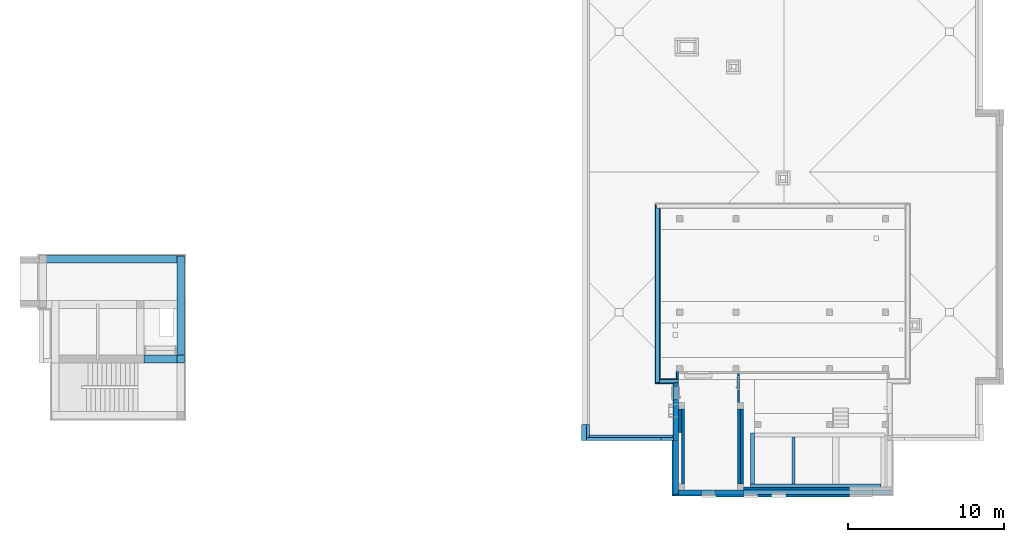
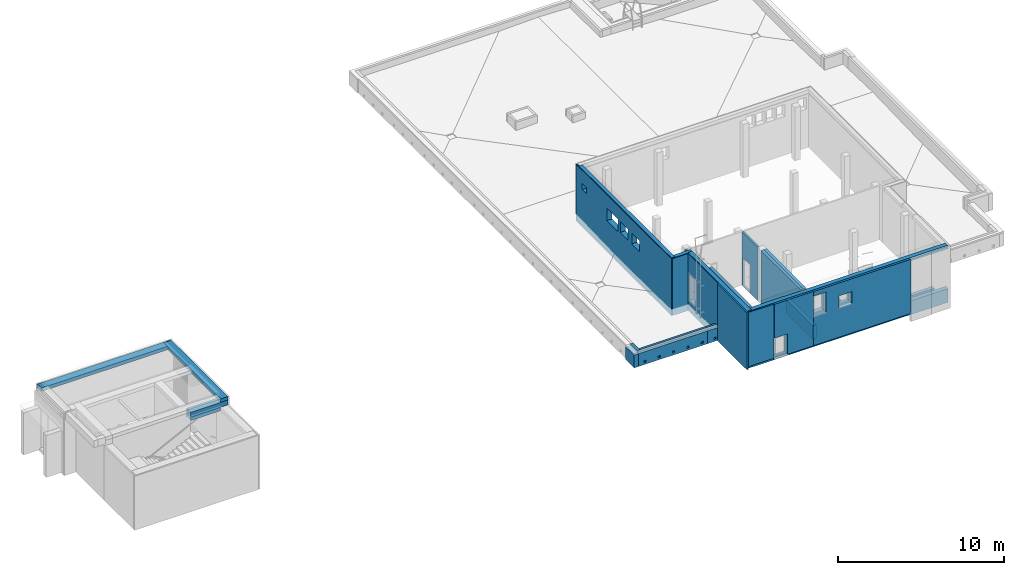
# One storey, part 4 of 17: 30 walls, 15 openings.
"""IFC4 building model written with IfcOpenShell, lengths in metres."""

from ifc_helpers import new_model, entity, si_unit, converted_unit, derived_unit, frame, frame_2d, origin, origin_with_axes, place, context, subcontext, project, spatial, polyline, rectangle, outline, extrude, clip, bounded_halfspace, material, layer, layer_set, layer_usage, element, save


model = new_model("IFC4")

# Units and contexts
model_context = context("Model", 3, precision=1e-05, world=origin())
body_context = subcontext(model_context, "Body", "Model", "MODEL_VIEW")
ifc_project = project(units=[si_unit("LENGTHUNIT", "METRE"), si_unit("AREAUNIT", "SQUARE_METRE"), si_unit("VOLUMEUNIT", "CUBIC_METRE"), si_unit("MASSUNIT", "GRAM", prefix="KILO"), converted_unit("PLANEANGLEUNIT", "DEGREE", entity("IfcPlaneAngleMeasure", 0.0174532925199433), si_unit("PLANEANGLEUNIT", "RADIAN"), dimensions=[0, 0, 0, 0, 0, 0, 0]), derived_unit("THERMALTRANSMITTANCEUNIT", [(si_unit("POWERUNIT", "WATT"), 1), (si_unit("THERMODYNAMICTEMPERATUREUNIT", "KELVIN"), -1), (si_unit("LENGTHUNIT", "METRE"), -2)]), derived_unit("VOLUMETRICFLOWRATEUNIT", [(si_unit("LENGTHUNIT", "METRE"), 3), (converted_unit("TIMEUNIT", "hour", entity("IfcTimeMeasure", 3600.0), si_unit("TIMEUNIT", "SECOND"), dimensions=[0, 0, 1, 0, 0, 0, 0]), -1), (si_unit("LENGTHUNIT", "METRE"), -1)])], contexts=[model_context])

# Site, building, storey
site_placement = place(None, origin())
site = spatial("IfcSite", under=ifc_project, at=site_placement, Name="3. ASŘ", CompositionType="ELEMENT")
building_placement = place(site_placement, origin())
building = spatial("IfcBuilding", under=site, at=building_placement, Name="Pavilon C", CompositionType="ELEMENT")
storey_placement = place(building_placement, frame((0.0, 0.0, 13.8)))
storey = spatial("IfcBuildingStorey", under=building, at=storey_placement, Name="Půdorys 5.NP", CompositionType="ELEMENT", Elevation=13.8)

# Walls
ifc_material_1 = material(Name="ZDIVO Z CDm")
ifc_layer_1 = layer(ifc_material_1, 0.5)
ifc_layer_set_1 = layer_set([ifc_layer_1])
ifc_layer_usage_1 = layer_usage(ifc_layer_set_1, "AXIS2", "POSITIVE", 0.0)
wall_1_placement = place(storey_placement, frame((-3.62499999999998, 3.95, 3.08)))
element("IfcWall", 1, at=wall_1_placement, inside=storey, material=ifc_layer_usage_1, Name="ZDIVO Z CDm", context=body_context, shape_type="SweptSolid", body=[
    extrude(rectangle(XDim=2.6, YDim=0.5, at=frame_2d((1.3, 0.25), x_axis=(1.0, 0.0))), origin_with_axes(), (0.0, 0.0, 1.0), 0.37),
])
ifc_material_2 = material(Name="ZDIVO Z CDm")
ifc_layer_2 = layer(ifc_material_2, 0.2)
ifc_layer_set_2 = layer_set([ifc_layer_2])
ifc_layer_usage_2 = layer_usage(ifc_layer_set_2, "AXIS2", "POSITIVE", 0.0)
wall_2_placement = place(storey_placement, frame((37.95, -0.800000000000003, -0.1), z_axis=(0.0, 0.0, 1.0), x_axis=(0.0, -1.0, 0.0)))
element("IfcWall", 2, at=wall_2_placement, inside=storey, material=ifc_layer_usage_2, Name="ZDIVO Z CDm", context=body_context, shape_type="SweptSolid", body=[
    extrude(rectangle(XDim=3.0, YDim=0.2, at=frame_2d((1.5, 0.1), x_axis=(1.0, 0.0))), origin_with_axes(), (0.0, 0.0, 1.0), 1.0),
])

# Wall, opening
ifc_material_3 = material(Name="ZDIVO Z CDm")
ifc_layer_3 = layer(ifc_material_3, 0.125)
ifc_layer_set_3 = layer_set([ifc_layer_3])
ifc_layer_usage_3 = layer_usage(ifc_layer_set_3, "AXIS2", "POSITIVE", 0.0)
wall_3_placement = place(storey_placement, frame((34.45, 3.275, -0.1), z_axis=(0.0, 0.0, 1.0), x_axis=(0.0, -1.0, 0.0)))
wall_3 = element("IfcWall", 3, at=wall_3_placement, inside=storey, material=ifc_layer_usage_3, Name="ZDIVO Z CDm", context=body_context, shape_type="SweptSolid", body=[
    extrude(rectangle(XDim=1.875, YDim=0.125, at=frame_2d((0.937499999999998, 0.0625), x_axis=(1.0, 0.0))), origin_with_axes(), (0.0, 0.0, 1.0), 3.95),
])
opening_1_placement = place(wall_3_placement, frame((1.05, 0.125, 0.1), z_axis=(0.0, -1.0, 0.0), x_axis=(0.0, 0.0, 1.0)))
element("IfcOpeningElement", 4, at=opening_1_placement, cuts=wall_3, Name="Dveřní otvor", ObjectType="Opening", context=body_context, shape_type="SweptSolid", body=[
    extrude(outline(polyline([(0.0, 0.9), (2.02, 0.9), (2.02, 0.0), (0.0, 0.0), (0.0, 0.9)])), origin_with_axes(), (0.0, 0.0, 1.0), 0.125),
])

# Walls
ifc_material_4 = material(Name="ZDIVO Z CDm")
ifc_layer_4 = layer(ifc_material_4, 0.125)
ifc_layer_set_4 = layer_set([ifc_layer_4])
ifc_layer_usage_4 = layer_usage(ifc_layer_set_4, "AXIS2", "POSITIVE", 0.0)
wall_4_placement = place(storey_placement, frame((30.65, 2.94999999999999, -0.1), z_axis=(0.0, 0.0, 1.0), x_axis=(0.0, 1.0, 0.0)))
element("IfcWall", 5, at=wall_4_placement, inside=storey, material=ifc_layer_usage_4, Name="ZDIVO Z CDm", context=body_context, shape_type="SweptSolid", body=[
    extrude(rectangle(XDim=0.450000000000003, YDim=0.125, at=frame_2d((0.225000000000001, 0.0625), x_axis=(1.0, 0.0))), origin_with_axes(), (0.0, 0.0, 1.0), 3.95),
])
ifc_material_5 = material(Name="ZDIVO Z CDm")
ifc_layer_5 = layer(ifc_material_5, 0.25)
ifc_layer_set_5 = layer_set([ifc_layer_5])
ifc_layer_usage_5 = layer_usage(ifc_layer_set_5, "AXIS2", "POSITIVE", 0.0)
wall_5_placement = place(storey_placement, frame((43.65, -3.80000000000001, -0.1), z_axis=(0.0, 0.0, 1.0), x_axis=(-1.0, 5.44607605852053e-17, 0.0)))
element("IfcWall", 6, at=wall_5_placement, inside=storey, material=ifc_layer_usage_5, Name="ZDIVO Z CDm", context=body_context, shape_type="SweptSolid", body=[
    extrude(rectangle(XDim=8.34999999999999, YDim=0.25, at=frame_2d((4.175, 0.125), x_axis=(1.0, 0.0))), origin_with_axes(), (0.0, 0.0, 1.0), 1.0),
])
ifc_material_6 = material(Name="PLYNOSILIKÁT")
ifc_layer_6 = layer(ifc_material_6, 0.3)
ifc_layer_set_6 = layer_set([ifc_layer_6])
ifc_layer_usage_6 = layer_usage(ifc_layer_set_6, "AXIS2", "POSITIVE", 0.0)
wall_6_placement = place(storey_placement, frame((34.85, -4.5, -0.1), z_axis=(0.0, 0.0, 1.0), x_axis=(1.0, -9.57362843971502e-17, 0.0)))
element("IfcWall", 7, at=wall_6_placement, inside=storey, material=ifc_layer_usage_6, Name="PLYNOSILIKÁT", context=body_context, shape_type="SweptSolid", body=[
    extrude(rectangle(XDim=9.50000000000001, YDim=0.3, at=frame_2d((4.75000000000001, 0.15), x_axis=(1.0, 0.0))), origin_with_axes(), (0.0, 0.0, 1.0), 1.0),
])
ifc_material_7 = material(Name="ZDIVO Z CDm")
ifc_layer_7 = layer(ifc_material_7, 0.25)
ifc_layer_set_7 = layer_set([ifc_layer_7])
ifc_layer_usage_7 = layer_usage(ifc_layer_set_7, "AXIS2", "POSITIVE", 0.0)
wall_7_placement = place(storey_placement, frame((35.55, -3.80000000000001, -0.1), z_axis=(0.0, 0.0, 1.0), x_axis=(0.0, 1.0, 0.0)))
element("IfcWall", 8, at=wall_7_placement, inside=storey, material=ifc_layer_usage_7, Name="ZDIVO Z CDm", context=body_context, shape_type="SweptSolid", body=[
    extrude(rectangle(XDim=3.25000000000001, YDim=0.25, at=frame_2d((1.625, 0.125), x_axis=(1.0, 0.0))), origin_with_axes(), (0.0, 0.0, 1.0), 1.0),
])
ifc_material_8 = material(Name="ZELEZOBETONOVÁ KCE")
ifc_layer_8 = layer(ifc_material_8, 0.2)
ifc_layer_set_8 = layer_set([ifc_layer_8])
ifc_layer_usage_8 = layer_usage(ifc_layer_set_8, "AXIS2", "POSITIVE", 0.0)
wall_8_placement = place(storey_placement, frame((30.85, -0.499999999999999, -0.1), z_axis=(0.0, 0.0, 1.0), x_axis=(0.0, 1.0, 0.0)))
element("IfcWall", 9, at=wall_8_placement, inside=storey, material=ifc_layer_usage_8, Name="ZELEZOBETONOVÁ KCE", context=body_context, shape_type="SweptSolid", body=[
    extrude(rectangle(XDim=1.5, YDim=0.2, at=frame_2d((0.75, 0.1), x_axis=(1.0, 0.0))), origin_with_axes(), (0.0, 0.0, 1.0), 3.95),
])
ifc_material_9 = material(Name="ZELEZOBETONOVÁ KCE")
ifc_layer_9 = layer(ifc_material_9, 0.2)
ifc_layer_set_9 = layer_set([ifc_layer_9])
ifc_layer_usage_9 = layer_usage(ifc_layer_set_9, "AXIS2", "POSITIVE", 0.0)
wall_9_placement = place(storey_placement, frame((31.05, -3.79999999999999, -0.1), z_axis=(0.0, 0.0, 1.0), x_axis=(0.0, 1.0, 0.0)))
element("IfcWall", 10, at=wall_9_placement, inside=storey, material=ifc_layer_usage_9, Name="ZELEZOBETONOVÁ KCE", context=body_context, shape_type="SweptSolid", body=[
    extrude(rectangle(XDim=4.79999999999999, YDim=0.2, at=frame_2d((2.4, 0.1), x_axis=(1.0, 0.0))), origin_with_axes(), (0.0, 0.0, 1.0), 3.95),
])
ifc_material_10 = material(Name="ZELEZOBETONOVÁ KCE")
ifc_layer_10 = layer(ifc_material_10, 0.2)
ifc_layer_set_10 = layer_set([ifc_layer_10])
ifc_layer_usage_10 = layer_usage(ifc_layer_set_10, "AXIS2", "POSITIVE", 0.0)
wall_10_placement = place(storey_placement, frame((34.45, 1.0, -0.1), z_axis=(0.0, 0.0, 1.0), x_axis=(0.0, -1.0, 0.0)))
element("IfcWall", 11, at=wall_10_placement, inside=storey, material=ifc_layer_usage_10, Name="ZELEZOBETONOVÁ KCE", context=body_context, shape_type="SweptSolid", body=[
    extrude(rectangle(XDim=4.8, YDim=0.2, at=frame_2d((2.4, 0.1), x_axis=(1.0, 0.0))), origin_with_axes(), (0.0, 0.0, 1.0), 3.95),
])
ifc_material_11 = material(Name="ZELEZOBETONOVÁ KCE")
ifc_layer_11 = layer(ifc_material_11, 0.2)
ifc_layer_set_11 = layer_set([ifc_layer_11])
ifc_layer_usage_11 = layer_usage(ifc_layer_set_11, "AXIS2", "POSITIVE", 0.0)
wall_11_placement = place(storey_placement, frame((34.65, 1.0, -0.1), z_axis=(0.0, 0.0, 1.0), x_axis=(0.0, -1.0, 0.0)))
element("IfcWall", 12, at=wall_11_placement, inside=storey, material=ifc_layer_usage_11, Name="ZELEZOBETONOVÁ KCE", context=body_context, shape_type="SweptSolid", body=[
    extrude(rectangle(XDim=4.8, YDim=0.2, at=frame_2d((2.4, 0.1), x_axis=(1.0, 0.0))), origin_with_axes(), (0.0, 0.0, 1.0), 3.95),
])

# Wall, openings
ifc_material_12 = material(Name="EPS")
ifc_layer_12 = layer(ifc_material_12, 0.05)
ifc_material_13 = material(Name="PLYNOSILIKÁT")
ifc_layer_13 = layer(ifc_material_13, 0.3)
ifc_layer_set_12 = layer_set([ifc_layer_12, ifc_layer_13])
ifc_layer_usage_12 = layer_usage(ifc_layer_set_12, "AXIS2", "POSITIVE", -0.05)
wall_12_placement = place(storey_placement, frame((29.15, 14.15, -0.1), z_axis=(0.0, 0.0, 1.0), x_axis=(0.0, -1.0, 0.0)))
wall_12 = element("IfcWall", 13, at=wall_12_placement, inside=storey, material=ifc_layer_usage_12, Name="PLYNOSILIKÁT", context=body_context, shape_type="Clipping", body=[
    clip(extrude(outline(polyline([(-11.55, 0.0), (0.0, 0.0), (0.0, 0.05), (-0.05, 0.05), (-0.05, 0.35), (-11.25, 0.35), (-11.25, 0.05), (-11.55, 0.05), (-11.55, 0.0)])), frame((11.55, 0.0, 0.0), z_axis=(0.0, 0.0, 1.0), x_axis=(1.0, 0.0, 0.0)), (0.0, 0.0, 1.0), 4.2), bounded_halfspace(frame((5.9, 0.199999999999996, 3.95), z_axis=(0.0, 0.0, -1.0), x_axis=(1.0, 0.0, 0.0)), True, origin_with_axes(), polyline([(0.3, 0.0499999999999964), (11.5, 0.0499999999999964), (11.5, 0.349999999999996), (0.3, 0.349999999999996), (0.3, 0.0499999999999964)]))),
])
opening_2_placement = place(wall_12_placement, frame((6.75, 0.0, 2.4), z_axis=(0.0, 1.0, 0.0), x_axis=(0.0, 0.0, 1.0)))
element("IfcOpeningElement", 14, at=opening_2_placement, cuts=wall_12, Name="Prostup stěnou", ObjectType="Opening", context=body_context, shape_type="SweptSolid", body=[
    extrude(outline(polyline([(0.0, 0.95), (0.8, 0.95), (0.8, 0.0), (0.0, 0.0), (0.0, 0.95)])), origin_with_axes(), (0.0, 0.0, 1.0), 0.05),
    extrude(outline(polyline([(0.0, 0.95), (0.8, 0.95), (0.8, 0.0), (0.0, 0.0), (0.0, 0.95)])), frame((0.0, 0.0, 0.05), z_axis=(0.0, 0.0, 1.0), x_axis=(1.0, 0.0, 0.0)), (0.0, 0.0, 1.0), 0.3),
])
opening_3_placement = place(wall_12_placement, frame((3.75, 0.0, 2.3), z_axis=(0.0, 1.0, 0.0), x_axis=(0.0, 0.0, 1.0)))
element("IfcOpeningElement", 15, at=opening_3_placement, cuts=wall_12, Name="Prostup stěnou", ObjectType="Opening", context=body_context, shape_type="SweptSolid", body=[
    extrude(outline(polyline([(0.0, 1.3), (0.9, 1.3), (0.9, 0.0), (0.0, 0.0), (0.0, 1.3)])), origin_with_axes(), (0.0, 0.0, 1.0), 0.05),
    extrude(outline(polyline([(0.0, 1.3), (0.9, 1.3), (0.9, 0.0), (0.0, 0.0), (0.0, 1.3)])), frame((0.0, 0.0, 0.05), z_axis=(0.0, 0.0, 1.0), x_axis=(1.0, 0.0, 0.0)), (0.0, 0.0, 1.0), 0.3),
])
opening_4_placement = place(wall_12_placement, frame((5.35, 0.0, 2.4), z_axis=(0.0, 1.0, 0.0), x_axis=(0.0, 0.0, 1.0)))
element("IfcOpeningElement", 16, at=opening_4_placement, cuts=wall_12, Name="Prostup stěnou", ObjectType="Opening", context=body_context, shape_type="SweptSolid", body=[
    extrude(outline(polyline([(0.0, 0.949999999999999), (0.8, 0.949999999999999), (0.8, 0.0), (0.0, 0.0), (0.0, 0.949999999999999)])), origin_with_axes(), (0.0, 0.0, 1.0), 0.05),
    extrude(outline(polyline([(0.0, 0.949999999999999), (0.8, 0.949999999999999), (0.8, 0.0), (0.0, 0.0), (0.0, 0.949999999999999)])), frame((0.0, 0.0, 0.05), z_axis=(0.0, 0.0, 1.0), x_axis=(1.0, 0.0, 0.0)), (0.0, 0.0, 1.0), 0.3),
])
opening_5_placement = place(wall_12_placement, frame((0.750000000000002, 0.0, 2.78), z_axis=(0.0, 1.0, 0.0), x_axis=(0.0, 0.0, 1.0)))
element("IfcOpeningElement", 17, at=opening_5_placement, cuts=wall_12, Name="Prostup stěnou", ObjectType="Opening", context=body_context, shape_type="SweptSolid", body=[
    extrude(outline(polyline([(0.0, 0.5), (0.45, 0.5), (0.45, 0.0), (0.0, 0.0), (0.0, 0.5)])), origin_with_axes(), (0.0, 0.0, 1.0), 0.05),
    extrude(outline(polyline([(0.0, 0.5), (0.45, 0.5), (0.45, 0.0), (0.0, 0.0), (0.0, 0.5)])), frame((0.0, 0.0, 0.05), z_axis=(0.0, 0.0, 1.0), x_axis=(1.0, 0.0, 0.0)), (0.0, 0.0, 1.0), 0.3),
])

# Wall
ifc_material_14 = material(Name="EPS")
ifc_layer_14 = layer(ifc_material_14, 0.05)
ifc_material_15 = material(Name="PLYNOSILIKÁT")
ifc_layer_15 = layer(ifc_material_15, 0.3)
ifc_layer_set_13 = layer_set([ifc_layer_14, ifc_layer_15])
ifc_layer_usage_13 = layer_usage(ifc_layer_set_13, "AXIS2", "POSITIVE", -0.05)
wall_13_placement = place(storey_placement, frame((29.2, 2.59999999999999, -0.1)))
element("IfcWall", 18, at=wall_13_placement, inside=storey, material=ifc_layer_usage_13, Name="PLYNOSILIKÁT", context=body_context, shape_type="Clipping", body=[
    clip(extrude(outline(polyline([(0.0, 0.0), (1.15, 0.0), (1.15, 0.05), (1.45, 0.05), (1.45, 0.35), (0.3, 0.35), (0.3, 0.05), (0.0, 0.05), (0.0, 0.0)])), origin_with_axes(), (0.0, 0.0, 1.0), 4.2), bounded_halfspace(frame((0.930000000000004, 0.17, 3.95), z_axis=(0.0, 0.0, -1.0), x_axis=(1.0, 0.0, 0.0)), True, origin_with_axes(), polyline([(1.15, 0.05), (1.45, 0.05), (1.45, 0.35), (0.3, 0.35), (0.3, 0.05), (1.15, 0.05)]))),
])

# Wall, opening
ifc_material_16 = material(Name="EPS")
ifc_layer_16 = layer(ifc_material_16, 0.05)
ifc_material_17 = material(Name="PLYNOSILIKÁT")
ifc_layer_17 = layer(ifc_material_17, 0.3)
ifc_layer_set_14 = layer_set([ifc_layer_16, ifc_layer_17])
ifc_layer_usage_14 = layer_usage(ifc_layer_set_14, "AXIS2", "POSITIVE", -0.05)
wall_14_placement = place(storey_placement, frame((30.3, 2.59999999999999, -0.1), z_axis=(0.0, 0.0, 1.0), x_axis=(0.0, -1.0, 0.0)))
wall_14 = element("IfcWall", 19, at=wall_14_placement, inside=storey, material=ifc_layer_usage_14, Name="PLYNOSILIKÁT", context=body_context, shape_type="Clipping", body=[
    clip(extrude(outline(polyline([(-3.67, 0.35), (-3.67, 0.05), (-3.62, 0.05), (-3.62, 0.0), (0.0, 0.0), (0.0, 0.35), (-3.67, 0.35)])), frame((3.62, 0.0, 0.0), z_axis=(0.0, 0.0, 1.0), x_axis=(1.0, 0.0, 0.0)), (0.0, 0.0, 1.0), 4.2), bounded_halfspace(frame((1.428, 0.170000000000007, 3.95), z_axis=(0.0, 0.0, -1.0), x_axis=(1.0, 0.0, 0.0)), True, origin_with_axes(), polyline([(0.0, 0.05), (3.62, 0.05), (3.62, 0.350000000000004), (-0.05, 0.350000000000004), (-0.05, 0.0500000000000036), (0.0, 0.05)]))),
])
opening_6_placement = place(wall_14_placement, frame((0.150000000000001, 0.0, 0.85), z_axis=(0.0, 1.0, 0.0), x_axis=(0.0, 0.0, 1.0)))
element("IfcOpeningElement", 20, at=opening_6_placement, cuts=wall_14, Name="Dveřní otvor", ObjectType="Opening", context=body_context, shape_type="SweptSolid", body=[
    extrude(outline(polyline([(0.0, 0.83), (2.0, 0.83), (2.0, 0.0), (0.0, 0.0), (0.0, 0.83)])), origin_with_axes(), (0.0, 0.0, 1.0), 0.05),
    extrude(outline(polyline([(0.0, 0.83), (2.0, 0.83), (2.0, 0.0), (0.0, 0.0), (0.0, 0.83)])), frame((0.0, 0.0, 0.05), z_axis=(0.0, 0.0, 1.0), x_axis=(1.0, 0.0, 0.0)), (0.0, 0.0, 1.0), 0.3),
])

# Walls
ifc_material_18 = material(Name="EPS")
ifc_layer_18 = layer(ifc_material_18, 0.1)
ifc_material_19 = material(Name="PLYNOSILIKÁT")
ifc_layer_19 = layer(ifc_material_19, 0.3)
ifc_layer_set_15 = layer_set([ifc_layer_18, ifc_layer_19])
ifc_layer_usage_15 = layer_usage(ifc_layer_set_15, "AXIS2", "POSITIVE", -0.1)
wall_15_placement = place(storey_placement, frame((30.25, -1.02, -0.1), z_axis=(0.0, 0.0, 1.0), x_axis=(0.0, -1.0, 0.0)))
element("IfcWall", 21, at=wall_15_placement, inside=storey, material=ifc_layer_usage_15, Name="PLYNOSILIKÁT", context=body_context, shape_type="Clipping", body=[
    clip(extrude(outline(polyline([(-3.58, 0.0), (0.0, 0.0), (0.0, 0.1), (-0.1, 0.1), (-0.1, 0.4), (-3.58, 0.4), (-3.58, 0.0)])), frame((3.58, 0.0, 0.0), z_axis=(0.0, 0.0, 1.0), x_axis=(1.0, 0.0, 0.0)), (0.0, 0.0, 1.0), 4.2), bounded_halfspace(frame((1.74, 0.25, 3.95), z_axis=(0.0, 0.0, -1.0), x_axis=(1.0, 0.0, 0.0)), True, origin_with_axes(), polyline([(0.0, 0.1), (3.48, 0.1), (3.48, 0.4), (0.0, 0.4), (0.0, 0.1)]))),
])
ifc_material_20 = material(Name="EPS")
ifc_layer_20 = layer(ifc_material_20, 0.1)
ifc_material_21 = material(Name="PLYNOSILIKÁT")
ifc_layer_21 = layer(ifc_material_21, 0.3)
ifc_layer_set_16 = layer_set([ifc_layer_20, ifc_layer_21])
ifc_layer_usage_16 = layer_usage(ifc_layer_set_16, "AXIS2", "POSITIVE", -0.1)
wall_16_placement = place(storey_placement, frame((30.35, -4.6, -0.1)))
element("IfcWall", 22, at=wall_16_placement, inside=storey, material=ifc_layer_usage_16, Name="PLYNOSILIKÁT", context=body_context, shape_type="Clipping", body=[
    clip(clip(extrude(outline(polyline([(0.3, 0.4), (0.3, 0.1), (0.0, 0.1), (0.0, 0.0), (1.8, 0.0), (1.8, 0.4), (0.3, 0.4)])), origin_with_axes(), (0.0, 0.0, 1.0), 4.2), bounded_halfspace(frame((0.78, 0.06, 0.2), z_axis=(0.0, 0.0, 1.0), x_axis=(-1.0, 0.0, 0.0)), True, origin_with_axes(), polyline([(0.3, 0.1), (0.0, 0.1), (0.0, 0.0), (1.8, 0.0), (1.8, 0.1), (0.3, 0.1)]))), bounded_halfspace(frame((1.05, 0.25, 3.95), z_axis=(0.0, 0.0, -1.0), x_axis=(1.0, 0.0, 0.0)), True, origin_with_axes(), polyline([(0.3, 0.1), (1.8, 0.1), (1.8, 0.4), (0.3, 0.4), (0.3, 0.1)]))),
])

# Wall, opening
ifc_material_22 = material(Name="EPS")
ifc_layer_22 = layer(ifc_material_22, 0.15)
ifc_material_23 = material(Name="PLYNOSILIKÁT")
ifc_layer_23 = layer(ifc_material_23, 0.300000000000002)
ifc_layer_set_17 = layer_set([ifc_layer_22, ifc_layer_23])
ifc_layer_usage_17 = layer_usage(ifc_layer_set_17, "AXIS2", "POSITIVE", -0.15)
wall_17_placement = place(storey_placement, frame((32.15, -4.65, -0.1), z_axis=(0.0, 0.0, 1.0), x_axis=(1.0, -3.36849889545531e-16, 0.0)))
wall_17 = element("IfcWall", 23, at=wall_17_placement, inside=storey, material=ifc_layer_usage_17, Name="PLYNOSILIKÁT", context=body_context, shape_type="Clipping", body=[
    clip(clip(extrude(rectangle(XDim=2.69999999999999, YDim=0.450000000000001, at=frame_2d((1.34999999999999, 0.225), x_axis=(1.0, 0.0))), origin_with_axes(), (0.0, 0.0, 1.0), 4.2), bounded_halfspace(frame((1.34999999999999, 0.0749999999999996, 0.2), z_axis=(0.0, 0.0, 1.0), x_axis=(3.36849889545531e-16, -1.0, 0.0)), True, origin_with_axes(), polyline([(-5.05274834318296e-17, 0.15), (0.0, 0.0), (2.69999999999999, 0.0), (2.69999999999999, 0.15), (-5.05274834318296e-17, 0.15)]))), bounded_halfspace(frame((1.34999999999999, 0.300000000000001, 3.95), z_axis=(0.0, 0.0, -1.0), x_axis=(1.0, 0.0, 0.0)), True, origin_with_axes(), polyline([(-5.05274834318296e-17, 0.15), (2.69999999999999, 0.15), (2.69999999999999, 0.450000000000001), (-1.51582450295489e-16, 0.450000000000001), (-5.05274834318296e-17, 0.15)]))),
])
opening_7_placement = place(wall_17_placement, frame((0.0, 0.0, 0.2), z_axis=(-3.36849889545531e-16, 1.0, 0.0), x_axis=(0.0, 0.0, 1.0)))
element("IfcOpeningElement", 24, at=opening_7_placement, cuts=wall_17, Name="Okenní otvor", ObjectType="Opening", context=body_context, shape_type="SweptSolid", body=[
    extrude(outline(polyline([(0.0, 0.9), (1.5, 0.9), (1.5, 0.0), (0.0, 0.0), (0.0, 0.9)])), origin_with_axes(), (0.0, 0.0, 1.0), 0.15),
    extrude(outline(polyline([(0.0, 0.9), (1.5, 0.9), (1.5, 0.0), (0.0, 0.0), (0.0, 0.9)])), frame((0.0, 0.0, 0.15), z_axis=(0.0, 0.0, 1.0), x_axis=(1.0, 0.0, 0.0)), (0.0, 0.0, 1.0), 0.300000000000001),
])

# Wall, openings
ifc_material_24 = material(Name="EPS")
ifc_layer_24 = layer(ifc_material_24, 0.15)
ifc_material_25 = material(Name="PLYNOSILIKÁT")
ifc_layer_25 = layer(ifc_material_25, 0.5)
ifc_layer_set_18 = layer_set([ifc_layer_24, ifc_layer_25])
ifc_layer_usage_18 = layer_usage(ifc_layer_set_18, "AXIS2", "POSITIVE", -0.15)
wall_18_placement = place(storey_placement, frame((34.85, -4.65, 0.1), z_axis=(0.0, 0.0, 1.0), x_axis=(1.0, -1.3374922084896e-16, 0.0)))
wall_18 = element("IfcWall", 25, at=wall_18_placement, inside=storey, material=ifc_layer_usage_18, Name="PLYNOSILIKÁT", context=body_context, shape_type="Clipping", body=[
    clip(clip(extrude(rectangle(XDim=6.80000000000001, YDim=0.65, at=frame_2d((3.40000000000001, 0.325), x_axis=(1.0, 0.0))), origin_with_axes(), (0.0, 0.0, 1.0), 4.0), bounded_halfspace(frame((3.40000000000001, 0.4, 0.95), z_axis=(0.0, 0.0, 1.0), x_axis=(1.3374922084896e-16, -1.0, 0.0)), True, origin_with_axes(), polyline([(-8.69369935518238e-17, 0.65), (-2.00623831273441e-17, 0.150000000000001), (6.80000000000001, 0.150000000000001), (6.80000000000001, 0.65), (-8.69369935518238e-17, 0.65)]))), bounded_halfspace(frame((3.40000000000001, 0.4, 3.75), z_axis=(0.0, 0.0, -1.0), x_axis=(1.0, 0.0, 0.0)), True, origin_with_axes(), polyline([(-2.00623831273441e-17, 0.150000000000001), (6.80000000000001, 0.150000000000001), (6.80000000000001, 0.65), (-8.69369935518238e-17, 0.65), (-2.00623831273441e-17, 0.150000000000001)]))),
])
opening_8_placement = place(wall_18_placement, frame((0.0, 0.0, 2.15), z_axis=(-1.3374922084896e-16, 1.0, 0.0), x_axis=(0.0, 0.0, 1.0)))
element("IfcOpeningElement", 26, at=opening_8_placement, cuts=wall_18, Name="Okenní otvor", ObjectType="Opening", context=body_context, shape_type="SweptSolid", body=[
    extrude(outline(polyline([(0.0, 0.9), (1.5, 0.9), (1.5, 0.0), (0.0, 0.0), (0.0, 0.9)])), origin_with_axes(), (0.0, 0.0, 1.0), 0.15),
    extrude(outline(polyline([(0.0, 0.9), (1.5, 0.9), (1.5, 0.0), (0.0, 0.0), (0.0, 0.9)])), frame((0.0, 0.0, 0.15), z_axis=(0.0, 0.0, 1.0), x_axis=(1.0, 0.0, 0.0)), (0.0, 0.0, 1.0), 0.5),
])
opening_9_placement = place(wall_18_placement, frame((1.8, 2.40748597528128e-16, 2.15), z_axis=(0.0, 1.0, 0.0), x_axis=(0.0, 0.0, 1.0)))
element("IfcOpeningElement", 27, at=opening_9_placement, cuts=wall_18, Name="Okenní otvor", ObjectType="Opening", context=body_context, shape_type="SweptSolid", body=[
    extrude(outline(polyline([(0.0, 0.9), (0.9, 0.9), (0.9, 0.0), (0.0, 0.0), (0.0, 0.9)])), origin_with_axes(), (0.0, 0.0, 1.0), 0.15),
    extrude(outline(polyline([(0.0, 0.9), (0.9, 0.9), (0.9, 0.0), (0.0, 0.0), (0.0, 0.9)])), frame((0.0, 0.0, 0.15), z_axis=(0.0, 0.0, 1.0), x_axis=(1.0, 0.0, 0.0)), (0.0, 0.0, 1.0), 0.5),
])

# Wall, opening
ifc_material_26 = material(Name="ZDIVO Z CDm")
ifc_layer_26 = layer(ifc_material_26, 0.2)
ifc_layer_set_19 = layer_set([ifc_layer_26])
ifc_layer_usage_19 = layer_usage(ifc_layer_set_19, "AXIS2", "POSITIVE", 0.0)
wall_19_placement = place(storey_placement, frame((29.55, -1.02, -0.1)))
wall_19 = element("IfcWall", 28, at=wall_19_placement, inside=storey, material=ifc_layer_usage_19, Name="ZDIVO Z CDm", context=body_context, shape_type="SweptSolid", body=[
    extrude(rectangle(XDim=0.800000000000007, YDim=0.2, at=frame_2d((0.400000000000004, 0.1), x_axis=(1.0, 0.0))), origin_with_axes(), (0.0, 0.0, 1.0), 0.95),
])
opening_10_placement = place(wall_19_placement, frame((0.625, 0.199999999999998, 0.15), z_axis=(0.0, -1.0, 0.0), x_axis=(0.0, 0.0, 1.0)))
element("IfcOpeningElement", 29, at=opening_10_placement, cuts=wall_19, Name="Prostup stěnou", ObjectType="Opening", context=body_context, shape_type="SweptSolid", body=[
    extrude(outline(polyline([(0.0, 0.15), (0.15, 0.15), (0.15, 0.0), (0.0, 0.0), (0.0, 0.15)])), origin_with_axes(), (0.0, 0.0, 1.0), 0.2),
])

# Wall
ifc_material_27 = material(Name="ZELEZOBETONOVÁ KCE")
ifc_layer_27 = layer(ifc_material_27, 0.3)
ifc_layer_set_20 = layer_set([ifc_layer_27])
ifc_layer_usage_20 = layer_usage(ifc_layer_set_20, "AXIS2", "POSITIVE", 0.0)
wall_20_placement = place(storey_placement, frame((24.45, -2.72848410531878e-15, -0.1), z_axis=(0.0, 0.0, 1.0), x_axis=(0.0, -1.0, 0.0)))
element("IfcWall", 30, at=wall_20_placement, inside=storey, material=ifc_layer_usage_20, Name="ZELEZOBETONOVÁ KCE", context=body_context, shape_type="SweptSolid", body=[
    extrude(rectangle(XDim=1.02, YDim=0.3, at=frame_2d((0.51, 0.15), x_axis=(1.0, 0.0))), origin_with_axes(), (0.0, 0.0, 1.0), 0.95),
])

# Wall, openings
ifc_material_28 = material(Name="ZELEZOBETONOVÁ KCE")
ifc_layer_28 = layer(ifc_material_28, 0.2)
ifc_layer_set_21 = layer_set([ifc_layer_28])
ifc_layer_usage_21 = layer_usage(ifc_layer_set_21, "AXIS2", "POSITIVE", 0.0)
wall_21_placement = place(storey_placement, frame((24.75, -1.02, -0.1)))
wall_21 = element("IfcWall", 31, at=wall_21_placement, inside=storey, material=ifc_layer_usage_21, Name="ZELEZOBETONOVÁ KCE", context=body_context, shape_type="SweptSolid", body=[
    extrude(rectangle(XDim=4.8, YDim=0.2, at=frame_2d((2.4, 0.1), x_axis=(1.0, 0.0))), origin_with_axes(), (0.0, 0.0, 1.0), 0.95),
])
opening_11_placement = place(wall_21_placement, frame((0.525, 0.200000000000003, 0.15), z_axis=(0.0, -1.0, 0.0), x_axis=(0.0, 0.0, 1.0)))
element("IfcOpeningElement", 32, at=opening_11_placement, cuts=wall_21, Name="Prostup stěnou", ObjectType="Opening", context=body_context, shape_type="SweptSolid", body=[
    extrude(outline(polyline([(0.0, 0.15), (0.15, 0.15), (0.15, 0.0), (0.0, 0.0), (0.0, 0.15)])), origin_with_axes(), (0.0, 0.0, 1.0), 0.2),
])
opening_12_placement = place(wall_21_placement, frame((1.525, 0.199999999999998, 0.15), z_axis=(0.0, -1.0, 0.0), x_axis=(0.0, 0.0, 1.0)))
element("IfcOpeningElement", 33, at=opening_12_placement, cuts=wall_21, Name="Prostup stěnou", ObjectType="Opening", context=body_context, shape_type="SweptSolid", body=[
    extrude(outline(polyline([(0.0, 0.15), (0.15, 0.15), (0.15, 0.0), (0.0, 0.0), (0.0, 0.15)])), origin_with_axes(), (0.0, 0.0, 1.0), 0.2),
])
opening_13_placement = place(wall_21_placement, frame((2.525, 0.199999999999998, 0.15), z_axis=(0.0, -1.0, 0.0), x_axis=(0.0, 0.0, 1.0)))
element("IfcOpeningElement", 34, at=opening_13_placement, cuts=wall_21, Name="Prostup stěnou", ObjectType="Opening", context=body_context, shape_type="SweptSolid", body=[
    extrude(outline(polyline([(0.0, 0.15), (0.15, 0.15), (0.15, 0.0), (0.0, 0.0), (0.0, 0.15)])), origin_with_axes(), (0.0, 0.0, 1.0), 0.2),
])
opening_14_placement = place(wall_21_placement, frame((3.525, 0.2, 0.15), z_axis=(0.0, -1.0, 0.0), x_axis=(0.0, 0.0, 1.0)))
element("IfcOpeningElement", 35, at=opening_14_placement, cuts=wall_21, Name="Prostup stěnou", ObjectType="Opening", context=body_context, shape_type="SweptSolid", body=[
    extrude(outline(polyline([(0.0, 0.15), (0.15, 0.15), (0.15, 0.0), (0.0, 0.0), (0.0, 0.15)])), origin_with_axes(), (0.0, 0.0, 1.0), 0.2),
])
opening_15_placement = place(wall_21_placement, frame((4.525, 0.199999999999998, 0.15), z_axis=(0.0, -1.0, 0.0), x_axis=(0.0, 0.0, 1.0)))
element("IfcOpeningElement", 36, at=opening_15_placement, cuts=wall_21, Name="Prostup stěnou", ObjectType="Opening", context=body_context, shape_type="SweptSolid", body=[
    extrude(outline(polyline([(0.0, 0.15), (0.15, 0.15), (0.15, 0.0), (0.0, 0.0), (0.0, 0.15)])), origin_with_axes(), (0.0, 0.0, 1.0), 0.2),
])

# Walls
ifc_material_29 = material(Name="ZELEZOBETONOVÁ KCE")
ifc_layer_29 = layer(ifc_material_29, 0.5)
ifc_layer_set_22 = layer_set([ifc_layer_29])
ifc_layer_usage_22 = layer_usage(ifc_layer_set_22, "AXIS2", "POSITIVE", 0.0)
wall_22_placement = place(storey_placement, frame((-1.52499999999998, 4.45, 2.83), z_axis=(0.0, 0.0, 1.0), x_axis=(-1.0, 0.0, 0.0)))
element("IfcWall", 37, at=wall_22_placement, inside=storey, material=ifc_layer_usage_22, context=body_context, shape_type="SweptSolid", body=[
    extrude(rectangle(XDim=2.1, YDim=0.5, at=frame_2d((1.05, 0.25), x_axis=(1.0, 0.0))), origin_with_axes(), (0.0, 0.0, 1.0), 0.25),
])
ifc_material_30 = material(Name="HERAKLIT")
ifc_layer_30 = layer(ifc_material_30, 0.05)
ifc_material_31 = material(Name="ZELEZOBETONOVÁ KCE")
ifc_layer_31 = layer(ifc_material_31, 0.2)
ifc_layer_set_23 = layer_set([ifc_layer_30, ifc_layer_31])
ifc_layer_usage_23 = layer_usage(ifc_layer_set_23, "AXIS2", "POSITIVE", 0.0)
wall_23_placement = place(storey_placement, frame((29.2, 14.1, 3.85), z_axis=(0.0, 0.0, 1.0), x_axis=(0.0, -1.0, 0.0)))
element("IfcWall", 38, at=wall_23_placement, inside=storey, material=ifc_layer_usage_23, context=body_context, shape_type="SweptSolid", body=[
    extrude(outline(polyline([(-11.45, 0.0), (0.0, 0.0), (0.0, 0.05), (-0.05, 0.05), (-0.05, 0.25), (-11.25, 0.25), (-11.25, 0.05), (-11.45, 0.05), (-11.45, 0.0)])), frame((11.45, 0.0, 0.0), z_axis=(0.0, 0.0, 1.0), x_axis=(1.0, 0.0, 0.0)), (0.0, 0.0, 1.0), 0.25),
])
ifc_material_32 = material(Name="HERAKLIT")
ifc_layer_32 = layer(ifc_material_32, 0.05)
ifc_material_33 = material(Name="ZELEZOBETONOVÁ KCE")
ifc_layer_33 = layer(ifc_material_33, 0.2)
ifc_layer_set_24 = layer_set([ifc_layer_32, ifc_layer_33])
ifc_layer_usage_24 = layer_usage(ifc_layer_set_24, "AXIS2", "POSITIVE", 0.0)
wall_24_placement = place(storey_placement, frame((29.25, 2.64999999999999, 3.85)))
element("IfcWall", 39, at=wall_24_placement, inside=storey, material=ifc_layer_usage_24, context=body_context, shape_type="SweptSolid", body=[
    extrude(outline(polyline([(0.0, 0.0), (1.15, 0.0), (1.15, 0.05), (1.4, 0.05), (1.4, 0.25), (0.2, 0.25), (0.2, 0.05), (0.0, 0.05), (0.0, 0.0)])), origin_with_axes(), (0.0, 0.0, 1.0), 0.25),
])
ifc_material_34 = material(Name="HERAKLIT")
ifc_layer_34 = layer(ifc_material_34, 0.05)
ifc_material_35 = material(Name="ZELEZOBETONOVÁ KCE")
ifc_layer_35 = layer(ifc_material_35, 0.25)
ifc_layer_set_25 = layer_set([ifc_layer_34, ifc_layer_35])
ifc_layer_usage_25 = layer_usage(ifc_layer_set_25, "AXIS2", "POSITIVE", 0.0)
wall_25_placement = place(storey_placement, frame((30.35, 2.64999999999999, 3.85), z_axis=(0.0, 0.0, 1.0), x_axis=(0.0, -1.0, 0.0)))
element("IfcWall", 40, at=wall_25_placement, inside=storey, material=ifc_layer_usage_25, context=body_context, shape_type="SweptSolid", body=[
    extrude(outline(polyline([(-7.15, 0.0), (0.0, 0.0), (0.0, 0.05), (-0.05, 0.05), (-0.05, 0.3), (-7.2, 0.3), (-7.2, 0.05), (-7.15, 0.05), (-7.15, 0.0)])), frame((7.15, 0.0, 0.0), z_axis=(0.0, 0.0, 1.0), x_axis=(1.0, 0.0, 0.0)), (0.0, 0.0, 1.0), 0.25),
])
ifc_material_36 = material(Name="HERAKLIT")
ifc_layer_36 = layer(ifc_material_36, 0.05)
ifc_material_37 = material(Name="ZELEZOBETONOVÁ KCE")
ifc_layer_37 = layer(ifc_material_37, 0.25)
ifc_layer_set_26 = layer_set([ifc_layer_36, ifc_layer_37])
ifc_layer_usage_26 = layer_usage(ifc_layer_set_26, "AXIS2", "POSITIVE", 0.0)
wall_26_placement = place(storey_placement, frame((30.4, -4.5, 3.85), z_axis=(0.0, 0.0, 1.0), x_axis=(1.0, -1.30393505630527e-16, 0.0)))
element("IfcWall", 41, at=wall_26_placement, inside=storey, material=ifc_layer_usage_26, context=body_context, shape_type="SweptSolid", body=[
    extrude(outline(polyline([(-2.37184405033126e-31, 1.81898940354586e-15), (13.95, 1.81898940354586e-15), (13.95, 0.0500000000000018), (13.9, 0.0500000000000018), (13.9, 0.300000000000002), (0.25, 0.300000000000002), (0.25, 0.0500000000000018), (-6.51967528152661e-18, 0.0500000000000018), (-2.37184405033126e-31, 1.81898940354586e-15)])), frame((2.37184405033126e-31, -1.81898940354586e-15, 0.0), z_axis=(0.0, 0.0, 1.0), x_axis=(1.0, 0.0, 0.0)), (0.0, 0.0, 1.0), 0.25),
])
ifc_material_38 = material(Name="ZELEZOBETONOVÁ KCE")
ifc_layer_38 = layer(ifc_material_38, 0.45)
ifc_material_39 = material(Name="LIGNOPOR")
ifc_layer_39 = layer(ifc_material_39, 0.05)
ifc_layer_set_27 = layer_set([ifc_layer_38, ifc_layer_39])
ifc_layer_usage_27 = layer_usage(ifc_layer_set_27, "AXIS2", "POSITIVE", 0.0)
wall_27_placement = place(storey_placement, frame((-1.52499999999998, 10.8, 3.45), z_axis=(0.0, 0.0, 1.0), x_axis=(0.0, -1.0, 0.0)))
element("IfcWall", 42, at=wall_27_placement, inside=storey, material=ifc_layer_usage_27, context=body_context, shape_type="SweptSolid", body=[
    extrude(outline(polyline([(-6.90000000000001, 0.5), (-6.90000000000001, 0.45), (-6.85000000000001, 0.45), (-6.85000000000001, 0.0), (0.0, 0.0), (0.0, 0.5), (-6.90000000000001, 0.5)])), frame((6.85000000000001, 0.0, 0.0), z_axis=(0.0, 0.0, 1.0), x_axis=(1.0, 0.0, 0.0)), (0.0, 0.0, 1.0), 0.25),
])
ifc_material_40 = material(Name="ZELEZOBETONOVÁ KCE")
ifc_layer_40 = layer(ifc_material_40, 0.45)
ifc_material_41 = material(Name="LIGNOPOR")
ifc_layer_41 = layer(ifc_material_41, 0.05)
ifc_layer_set_28 = layer_set([ifc_layer_40, ifc_layer_41])
ifc_layer_usage_28 = layer_usage(ifc_layer_set_28, "AXIS2", "POSITIVE", 0.0)
wall_28_placement = place(storey_placement, frame((-10.325, 10.35, 3.45), z_axis=(0.0, 0.0, 1.0), x_axis=(1.0, 8.26813365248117e-16, 0.0)))
element("IfcWall", 43, at=wall_28_placement, inside=storey, material=ifc_layer_usage_28, context=body_context, shape_type="SweptSolid", body=[
    extrude(outline(polyline([(0.05, -4.13406682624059e-17), (8.84999999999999, -4.13406682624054e-17), (8.84999999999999, 0.45), (9.29999999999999, 0.45), (9.29999999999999, 0.5), (4.13406682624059e-16, 0.5), (3.72066014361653e-16, 0.45), (0.0500000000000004, 0.45), (0.05, -4.13406682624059e-17)])), frame((-0.05, 4.13406682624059e-17, 0.0), z_axis=(0.0, 0.0, 1.0), x_axis=(1.0, 0.0, 0.0)), (0.0, 0.0, 1.0), 0.25),
])
ifc_material_42 = material(Name="MINERÁLNÍ VATA")
ifc_layer_42 = layer(ifc_material_42, 0.22)
ifc_layer_set_29 = layer_set([ifc_layer_42])
ifc_layer_usage_29 = layer_usage(ifc_layer_set_29, "AXIS2", "POSITIVE", 0.0)
wall_29_placement = place(storey_placement, frame((24.75, -2.8421709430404e-15, 0.16), z_axis=(0.0, 0.0, 1.0), x_axis=(0.0, -1.0, 0.0)))
element("IfcWall", 44, at=wall_29_placement, inside=storey, material=ifc_layer_usage_29, Name="MINERÁLNÍ VATA", context=body_context, shape_type="SweptSolid", body=[
    extrude(rectangle(XDim=0.819999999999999, YDim=0.22, at=frame_2d((0.41, 0.11), x_axis=(1.0, 0.0))), origin_with_axes(), (0.0, 0.0, 1.0), 0.790000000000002),
])
ifc_material_43 = material(Name="MINERÁLNÍ VATA")
ifc_layer_43 = layer(ifc_material_43, 0.15)
ifc_layer_set_30 = layer_set([ifc_layer_43])
ifc_layer_usage_30 = layer_usage(ifc_layer_set_30, "AXIS2", "POSITIVE", 0.0)
wall_30_placement = place(storey_placement, frame((24.97, -0.820000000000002, 0.16), z_axis=(0.0, 0.0, 1.0), x_axis=(1.0, -1.27977678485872e-16, 0.0)))
element("IfcWall", 45, at=wall_30_placement, inside=storey, material=ifc_layer_usage_30, Name="MINERÁLNÍ VATA", context=body_context, shape_type="SweptSolid", body=[
    extrude(rectangle(XDim=5.33000000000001, YDim=0.15, at=frame_2d((2.665, 0.075), x_axis=(1.0, 0.0))), origin_with_axes(), (0.0, 0.0, 1.0), 0.790000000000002),
])

save(model, "model.ifc")
